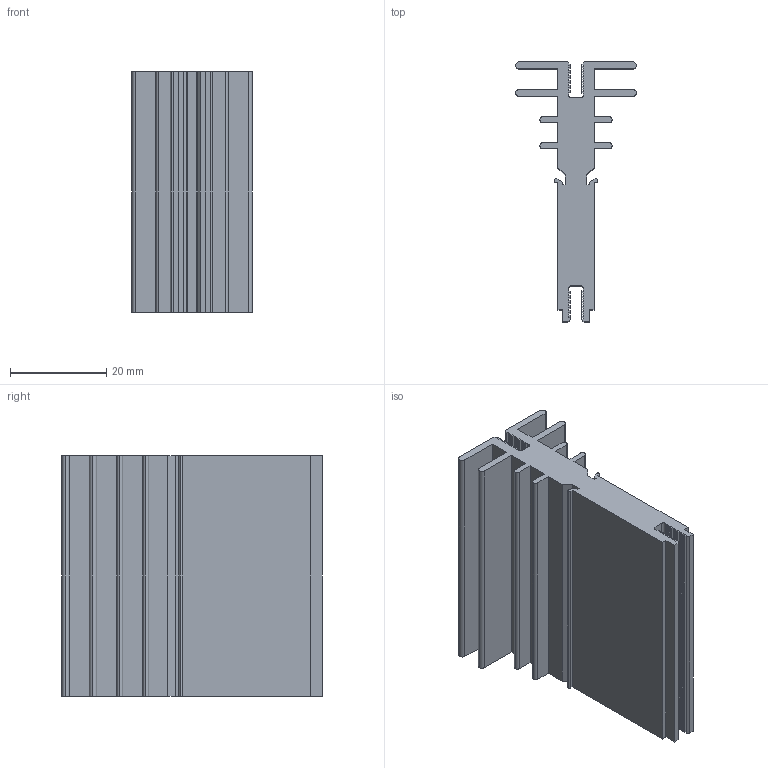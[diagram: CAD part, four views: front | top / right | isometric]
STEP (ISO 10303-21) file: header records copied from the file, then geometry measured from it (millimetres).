
FILE_DESCRIPTION (( 'STEP AP203' ), '1' );
FILE_NAME ('PR 118-50.step', '2002-10-20T23:16:55', ( 'Wolfgang Müller' ), ( 'DPS' ), 'SwSTEP 2.0', 'SolidWorks 2002264', '' );
FILE_SCHEMA (( 'CONFIG_CONTROL_DESIGN' ));
Length unit declared in the file: millimetre
Products named in the file (1): PR 118-50
Bounding box: 25 x 54 x 50 mm (x, y, z)
Volume: 21109.4 mm3; surface area: 14928.2 mm2
Topology: 1 solids, 1 shells, 216 faces, 642 edges, 428 vertices
Faces by surface type: plane 197, cylinder 19
Entity records: 7201 total; most frequent: CARTESIAN_POINT 1287, ORIENTED_EDGE 1284, DIRECTION 1114, EDGE_CURVE 642, LINE 604, VECTOR 604, VERTEX_POINT 428, AXIS2_PLACEMENT_3D 255
